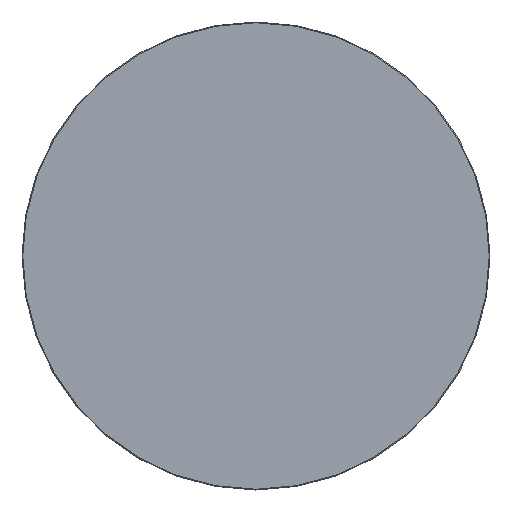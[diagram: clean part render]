
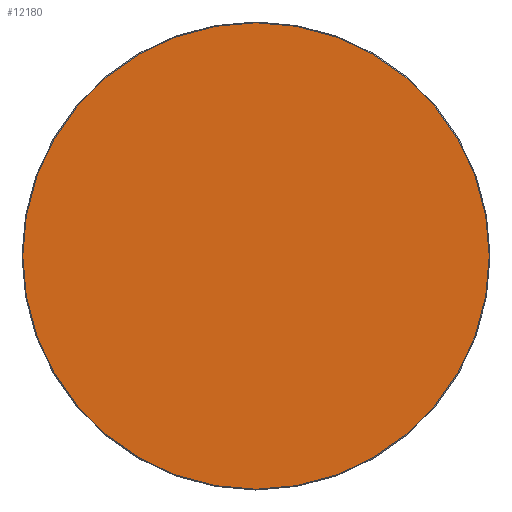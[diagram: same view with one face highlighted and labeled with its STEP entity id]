
A CAD part, top view. The second image highlights one B-rep face of the part: STEP entity #12180.
In plain terms, the highlighted planar face has unit normal (0, 0, 1).
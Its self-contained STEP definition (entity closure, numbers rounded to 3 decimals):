
#12105=CARTESIAN_POINT('',(0.,0.,20.));
#12106=DIRECTION('',(1.,0.,0.));
#12107=DIRECTION('',(0.,0.,1.));
#12108=AXIS2_PLACEMENT_3D('',#12105,#12107,#12106);
#12109=PLANE('',#12108);
#12110=CARTESIAN_POINT('',(-0.5,-448.5,20.));
#12111=VERTEX_POINT('',#12110);
#12112=CARTESIAN_POINT('',(0.5,-448.5,20.));
#12113=VERTEX_POINT('',#12112);
#12114=CARTESIAN_POINT('',(-0.5,-448.5,20.));
#12115=DIRECTION('',(1.,0.,0.));
#12116=VECTOR('',#12115,1.);
#12117=LINE('',#12114,#12116);
#12118=EDGE_CURVE('',#12111,#12113,#12117,.T.);
#12119=ORIENTED_EDGE('E105',*,*,#12118,.T.);
#12120=CARTESIAN_POINT('',(448.5,-0.5,20.));
#12121=VERTEX_POINT('',#12120);
#12122=CARTESIAN_POINT('',(0.5,-0.5,20.));
#12123=DIRECTION('',(0.,-1.,0.));
#12124=DIRECTION('',(0.,0.,1.));
#12125=AXIS2_PLACEMENT_3D('',#12122,#12124,#12123);
#12126=CIRCLE('',#12125,448.);
#12127=EDGE_CURVE('',#12113,#12121,#12126,.T.);
#12128=ORIENTED_EDGE('E107',*,*,#12127,.T.);
#12129=CARTESIAN_POINT('',(448.5,0.5,20.));
#12130=VERTEX_POINT('',#12129);
#12131=CARTESIAN_POINT('',(448.5,-0.5,20.));
#12132=DIRECTION('',(0.,1.,0.));
#12133=VECTOR('',#12132,1.);
#12134=LINE('',#12131,#12133);
#12135=EDGE_CURVE('',#12121,#12130,#12134,.T.);
#12136=ORIENTED_EDGE('E109',*,*,#12135,.T.);
#12137=CARTESIAN_POINT('',(0.5,448.5,20.));
#12138=VERTEX_POINT('',#12137);
#12139=CARTESIAN_POINT('',(0.5,0.5,20.));
#12140=DIRECTION('',(1.,0.,0.));
#12141=DIRECTION('',(0.,0.,1.));
#12142=AXIS2_PLACEMENT_3D('',#12139,#12141,#12140);
#12143=CIRCLE('',#12142,448.);
#12144=EDGE_CURVE('',#12130,#12138,#12143,.T.);
#12145=ORIENTED_EDGE('E111',*,*,#12144,.T.);
#12146=CARTESIAN_POINT('',(-0.5,448.5,20.));
#12147=VERTEX_POINT('',#12146);
#12148=CARTESIAN_POINT('',(0.5,448.5,20.));
#12149=DIRECTION('',(-1.,0.,0.));
#12150=VECTOR('',#12149,1.);
#12151=LINE('',#12148,#12150);
#12152=EDGE_CURVE('',#12138,#12147,#12151,.T.);
#12153=ORIENTED_EDGE('E113',*,*,#12152,.T.);
#12154=CARTESIAN_POINT('',(-448.5,0.5,20.));
#12155=VERTEX_POINT('',#12154);
#12156=CARTESIAN_POINT('',(-0.5,0.5,20.));
#12157=DIRECTION('',(0.,1.,0.));
#12158=DIRECTION('',(0.,0.,1.));
#12159=AXIS2_PLACEMENT_3D('',#12156,#12158,#12157);
#12160=CIRCLE('',#12159,448.);
#12161=EDGE_CURVE('',#12147,#12155,#12160,.T.);
#12162=ORIENTED_EDGE('E115',*,*,#12161,.T.);
#12163=CARTESIAN_POINT('',(-448.5,-0.5,20.));
#12164=VERTEX_POINT('',#12163);
#12165=CARTESIAN_POINT('',(-448.5,0.5,20.));
#12166=DIRECTION('',(0.,-1.,0.));
#12167=VECTOR('',#12166,1.);
#12168=LINE('',#12165,#12167);
#12169=EDGE_CURVE('',#12155,#12164,#12168,.T.);
#12170=ORIENTED_EDGE('E117',*,*,#12169,.T.);
#12171=CARTESIAN_POINT('',(-0.5,-0.5,20.));
#12172=DIRECTION('',(-1.,0.,0.));
#12173=DIRECTION('',(0.,0.,1.));
#12174=AXIS2_PLACEMENT_3D('',#12171,#12173,#12172);
#12175=CIRCLE('',#12174,448.);
#12176=EDGE_CURVE('',#12164,#12111,#12175,.T.);
#12177=ORIENTED_EDGE('E119',*,*,#12176,.T.);
#12178=EDGE_LOOP('',(#12119,#12128,#12136,#12145,#12153,#12162,#12170,#12177));
#12179=FACE_OUTER_BOUND('',#12178,.T.);
#12180=ADVANCED_FACE('F2',(#12179),#12109,.T.);
